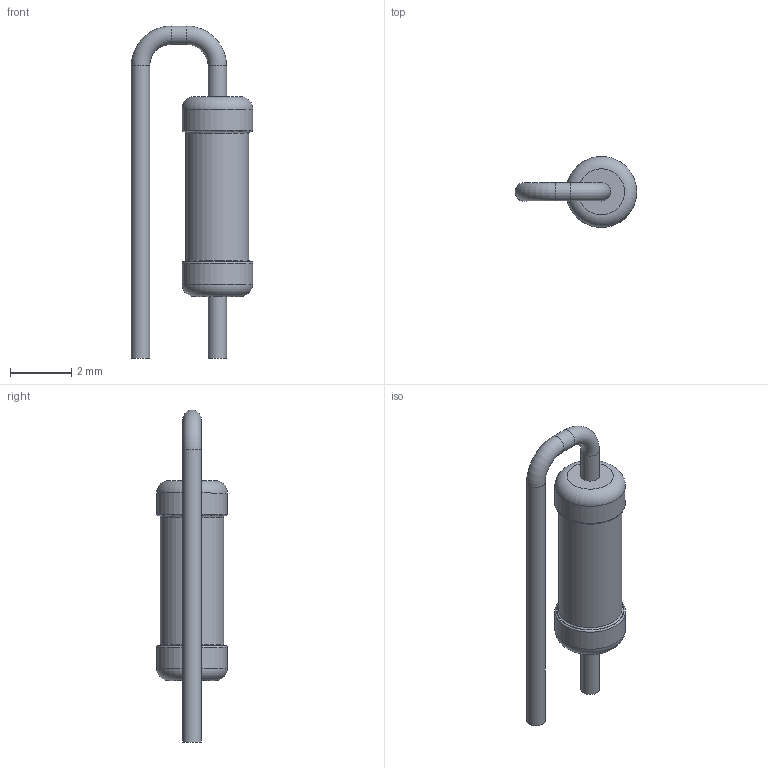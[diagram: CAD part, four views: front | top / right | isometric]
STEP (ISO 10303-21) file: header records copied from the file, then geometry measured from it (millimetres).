
FILE_DESCRIPTION(('STEP AP203'), '1');
FILE_NAME('栖闉罻', '', ('UNSPECIFIED'), ('UNSPECIFIED'), 'ASCON STEP Converter 1.6', 'ASCON Math Kernel', '');
FILE_SCHEMA(('CONFIG_CONTROL_DESIGN'));
Length unit declared in the file: millimetre
Assembly tree (1 placements, depth 2):
  (unnamed)
    (unnamed)
Bounding box: 3.95 x 2.3 x 10.8 mm (x, y, z)
Volume: 27.6 mm3; surface area: 80.9 mm2
Topology: 1 solids, 1 shells, 21 faces, 35 edges, 20 vertices
Faces by surface type: torus 8, cylinder 7, plane 6
Full cylindrical faces by diameter (mm): 0.6 x4, 2.057 x1, 2.3 x2
Entity records: 676 total; most frequent: DIRECTION 86, CARTESIAN_POINT 63, AXIS2_PLACEMENT_3D 43, EDGE_LOOP 40, ORIENTED_EDGE 40, FACE_OUTER_BOUND 30, COLOUR_RGB 22, FILL_AREA_STYLE_COLOUR 22
